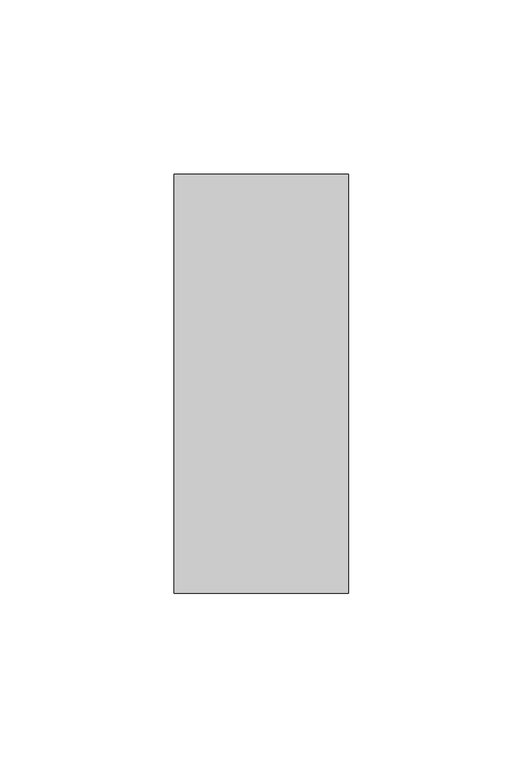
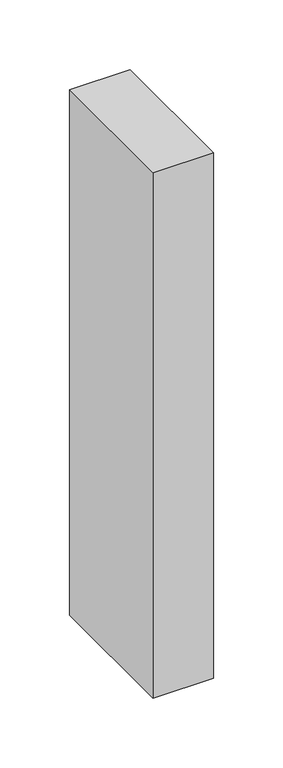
"""IFC4 building model written with IfcOpenShell, lengths in millimetres: member geometry, Прямоугольный импост : 50х120 мм."""

from ifc_helpers import new_model, si_unit, frame, origin, place, context, project, spatial, polyline, outline, extrude, source, transform, mapped, element, save


def member_3624bc93(model_context):
    return source(origin(), model_context, "Body", "SweptSolid", [
        extrude(outline(polyline([(25.0, 60.0), (25.0, -60.0), (-25.0, -60.0), (-25.0, 60.0), (25.0, 60.0)])), frame((0.0, 0.0, -460.0), z_axis=(0.0, 0.0, 1.0), x_axis=(1.0, 0.0, 0.0)), (0.0, 0.0, 1.0), 460.0),
    ])


if __name__ == "__main__":
    model = new_model("IFC4")
    model_context = context("Model", 3, world=origin())
    ifc_project = project(units=[si_unit("LENGTHUNIT", "METRE", prefix="MILLI")], contexts=[model_context])
    site = spatial("IfcSite", under=ifc_project)
    building = spatial("IfcBuilding", under=site)
    placement = place(None, origin())
    member_shape = member_3624bc93(model_context)
    element("IfcMember", 1, ObjectType="Прямоугольный импост : 50х120 мм", at=placement, inside=building, context=model_context, shape_type="MappedRepresentation", body=[
        mapped(member_shape, transform((0.0, 0.0, 0.0), x_axis=(1.0, 0.0, 0.0), y_axis=(0.0, 1.0, 0.0), z_axis=(0.0, 0.0, 1.0))),
    ])
    save(model, "model.ifc")
